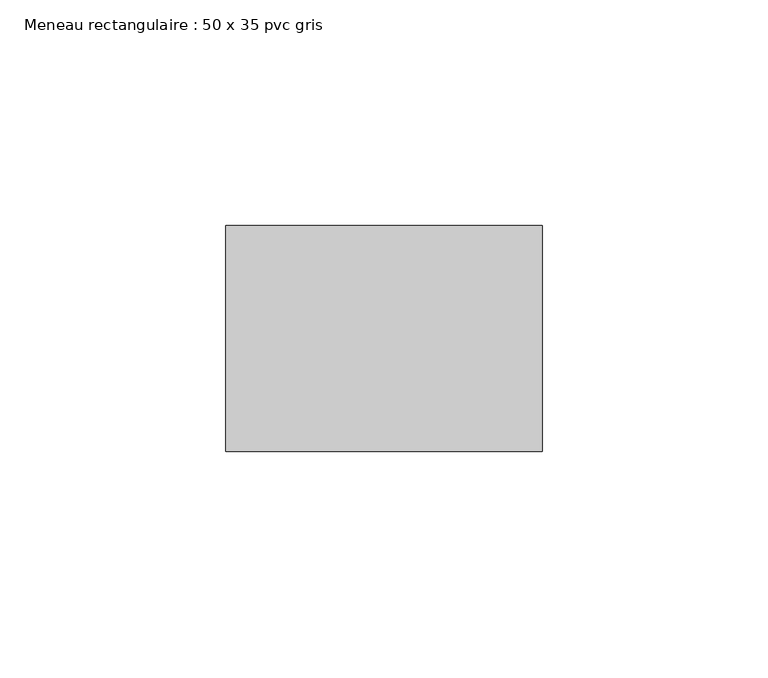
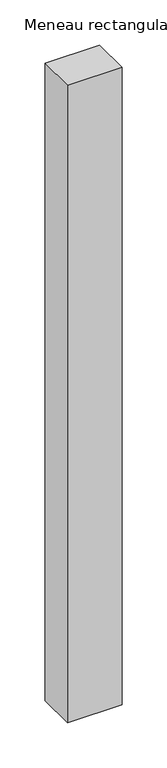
"""IFC4 building model written with IfcOpenShell, lengths in millimetres: member geometry, Meneau rectangulaire : 50 x 35 pvc gris."""

import ifcopenshell
import ifcopenshell.guid

model = None  # the IFC model being written
_history = None  # IfcOwnerHistory: only IFC2X3 demands one
_inside = {}  # id of a spatial element -> (the spatial element, [elements in it])
_under = {}  # id of a project, library or spatial element -> (it, [spatial elements below it])
_declared = {}  # id of a project -> (the project, [libraries it declares])
_typed = {}  # id of a type object -> (the type object, [elements of that type])
_made_of = {}  # id of a material, layer set ... -> (it, [elements and type objects made of it])


def new_model(schema):
    """Start an empty IFC model of exactly this schema.

    Asked for "IFC4X3", IfcOpenShell would pick the latest addendum, in which some entities
    have other attributes; the version numbers below select the first issue.
    IFC2X3 requires an IfcOwnerHistory on every rooted entity: one is made here for all.
    """
    global model, _history
    if schema == "IFC4X3":
        model = ifcopenshell.file(schema_version=(4, 3, 0, 0))
    else:
        model = ifcopenshell.file(schema=schema)
    _inside.clear()
    _under.clear()
    _declared.clear()
    _typed.clear()
    _made_of.clear()
    _history = None
    if model.schema == "IFC2X3":
        org = make("IfcOrganization", Name="unknown")
        user = make(
            "IfcPersonAndOrganization",
            ThePerson=make("IfcPerson", FamilyName="unknown"),
            TheOrganization=org,
        )
        app = make(
            "IfcApplication",
            ApplicationDeveloper=org,
            Version="unknown",
            ApplicationFullName="unknown",
            ApplicationIdentifier="unknown",
        )
        _history = make(
            "IfcOwnerHistory",
            OwningUser=user,
            OwningApplication=app,
            ChangeAction="ADDED",
            CreationDate=0,
        )
    return model


def make(cls, **values):
    """One entity of the class cls with the attributes given. An attribute that is None is left unset."""
    return model.create_entity(
        cls, **{name: value for name, value in values.items() if value is not None}
    )


def rooted(cls, **values):
    """An entity with a GlobalId (a new one), such as an element, a storey or a relation."""
    return make(cls, GlobalId=ifcopenshell.guid.new(), OwnerHistory=_history, **values)


def si_unit(unit_type, name, prefix=None):
    """IfcSIUnit, for example si_unit("LENGTHUNIT", "METRE", prefix="MILLI")."""
    return make("IfcSIUnit", UnitType=unit_type, Prefix=prefix, Name=name)


def assignment(units):
    """IfcUnitAssignment: the units of a project."""
    return None if units is None else make("IfcUnitAssignment", Units=units)


def point(xyz):
    """IfcCartesianPoint."""
    return None if xyz is None else make("IfcCartesianPoint", Coordinates=xyz)


def direction(xyz):
    """IfcDirection."""
    return None if xyz is None else make("IfcDirection", DirectionRatios=xyz)


def frame(location, z_axis=None, x_axis=None):
    """IfcAxis2Placement3D, a coordinate frame: its origin and axes. An axis left out is left unset."""
    return make(
        "IfcAxis2Placement3D",
        Location=point(location),
        Axis=direction(z_axis),
        RefDirection=direction(x_axis),
    )


def origin():
    """The frame at (0, 0, 0) with its axes left unset."""
    return frame((0.0, 0.0, 0.0))


def place(relative_to, where):
    """IfcLocalPlacement: puts the frame where relative to a parent placement (None: the world)."""
    return make(
        "IfcLocalPlacement", PlacementRelTo=relative_to, RelativePlacement=where
    )


def context(
    kind, dimensions, precision=None, world=None, true_north=None, identifier=None
):
    """IfcGeometricRepresentationContext, for example the 3D "Model" context."""
    return make(
        "IfcGeometricRepresentationContext",
        ContextIdentifier=identifier,
        ContextType=kind,
        CoordinateSpaceDimension=dimensions,
        Precision=precision,
        WorldCoordinateSystem=world,
        TrueNorth=true_north,
    )


def project(units=None, contexts=None):
    """IfcProject with its units and contexts."""
    return rooted(
        "IfcProject",
        Name="project",
        RepresentationContexts=contexts,
        UnitsInContext=assignment(units),
    )


def spatial(cls, under=None, at=None, **own):
    """A site, building, storey or space (cls), placed at a placement, below another one or the project."""
    s = rooted(cls, ObjectPlacement=at, **own)
    if under is not None:
        _under.setdefault(under.id(), (under, []))[1].append(s)
    return s


def polyline(points):
    """IfcPolyline through the points."""
    return make("IfcPolyline", Points=[point(p) for p in points])


def outline(outer, holes=None, kind="AREA"):
    """IfcArbitraryClosedProfileDef: a profile drawn as a closed curve; with holes, ...WithVoids."""
    if holes is None:
        return make("IfcArbitraryClosedProfileDef", ProfileType=kind, OuterCurve=outer)
    return make(
        "IfcArbitraryProfileDefWithVoids",
        ProfileType=kind,
        OuterCurve=outer,
        InnerCurves=holes,
    )


def extrude(swept, where, along, depth):
    """IfcExtrudedAreaSolid: the profile swept, set in the frame where, extruded along a direction by depth."""
    return make(
        "IfcExtrudedAreaSolid",
        SweptArea=swept,
        Position=where,
        ExtrudedDirection=direction(along),
        Depth=depth,
    )


def shape(context_of_items, identifier, shape_type, items):
    """IfcShapeRepresentation: the items that make up one representation, for example the "Body"."""
    return make(
        "IfcShapeRepresentation",
        ContextOfItems=context_of_items,
        RepresentationIdentifier=identifier,
        RepresentationType=shape_type,
        Items=items,
    )


def source(mapping_origin, context_of_items, identifier, shape_type, items):
    """IfcRepresentationMap: a shape defined once, which mapped items show again and again."""
    return make(
        "IfcRepresentationMap",
        MappingOrigin=mapping_origin,
        MappedRepresentation=shape(context_of_items, identifier, shape_type, items),
    )


def transform(
    local_origin,
    x_axis=None,
    y_axis=None,
    z_axis=None,
    scale=None,
    scale2=None,
    scale3=None,
    uniform=True,
):
    """IfcCartesianTransformationOperator3D, or its non-uniform kind. x_axis, y_axis, z_axis: its Axis1, 2, 3."""
    if uniform:
        return make(
            "IfcCartesianTransformationOperator3D",
            Axis1=direction(x_axis),
            Axis2=direction(y_axis),
            LocalOrigin=point(local_origin),
            Scale=scale,
            Axis3=direction(z_axis),
        )
    return make(
        "IfcCartesianTransformationOperator3DnonUniform",
        Axis1=direction(x_axis),
        Axis2=direction(y_axis),
        LocalOrigin=point(local_origin),
        Scale=scale,
        Axis3=direction(z_axis),
        Scale2=scale2,
        Scale3=scale3,
    )


def mapped(mapping_source, mapping_target):
    """IfcMappedItem: shows the shape of a source again, moved by a transform."""
    return make(
        "IfcMappedItem", MappingSource=mapping_source, MappingTarget=mapping_target
    )


def made_of(thing, what):
    """Note that an element or type object is made of a material, layer set ...; save() writes the relation."""
    if what is not None:
        _made_of.setdefault(what.id(), (what, []))[1].append(thing)
    return thing


def element(
    cls,
    number,
    at=None,
    inside=None,
    cuts=None,
    type_object=None,
    material=None,
    context=None,
    identifier="Body",
    shape_type=None,
    held_by="IfcProductDefinitionShape",
    body=None,
    shapes=None,
    **own,
):
    """One element of the class cls, such as IfcWall. Its Tag is "e" and its number.

    at: its placement. inside: the storey or other place that contains it. cuts: it is an
    opening in that element (IfcRelVoidsElement). A single representation is given by context,
    identifier, shape_type and body (its items); several are given by shapes. held_by: the class
    of the entity that holds the representations. save() writes the other relations.
    """
    e = rooted(cls, Tag="e%d" % number, ObjectPlacement=at, **own)
    if body is not None:
        shapes = [shape(context, identifier, shape_type, body)]
    if shapes is not None:
        e.Representation = make(held_by, Representations=shapes)
    if inside is not None:
        _inside.setdefault(inside.id(), (inside, []))[1].append(e)
    if cuts is not None:
        rooted(
            "IfcRelVoidsElement", RelatingBuildingElement=cuts, RelatedOpeningElement=e
        )
    if type_object is not None:
        _typed.setdefault(type_object.id(), (type_object, []))[1].append(e)
    return made_of(e, material)


def aggregate(whole, parts):
    """IfcRelAggregates: a whole, such as a stair, and the parts it consists of."""
    return rooted("IfcRelAggregates", RelatingObject=whole, RelatedObjects=parts)


def save(model, path):
    """Write the relations noted so far, then the file.

    IfcRelAggregates (storeys below a building ...), IfcRelContainedInSpatialStructure (elements
    in a storey), IfcRelDefinesByType, IfcRelAssociatesMaterial and IfcRelDeclares: one each for
    every whole, place, type object, material and project.
    """
    for whole, parts in _under.values():
        aggregate(whole, parts)
    for where, things in _inside.values():
        rooted(
            "IfcRelContainedInSpatialStructure",
            RelatedElements=things,
            RelatingStructure=where,
        )
    for kind, things in _typed.values():
        rooted("IfcRelDefinesByType", RelatedObjects=things, RelatingType=kind)
    for what, things in _made_of.values():
        rooted("IfcRelAssociatesMaterial", RelatedObjects=things, RelatingMaterial=what)
    for by, libraries in _declared.values():
        rooted("IfcRelDeclares", RelatingContext=by, RelatedDefinitions=libraries)
    model.write(path)


def meneau_rectangulaire_50_x_35_pvc_gris_e09bb9aa(model_context):
    return source(origin(), model_context, "Body", "SweptSolid", [
        extrude(outline(polyline([(0.0, 0.0), (0.0, -50.0), (-70.0, -50.0), (-70.0, 0.0), (0.0, 0.0)])), frame((0.0, 0.0, -864.6572324), z_axis=(0.0, 0.0, 1.0), x_axis=(1.0, 0.0, 0.0)), (0.0, 0.0, 1.0), 864.6572324),
    ])


if __name__ == "__main__":
    model = new_model("IFC4")
    model_context = context("Model", 3, world=origin())
    ifc_project = project(units=[si_unit("LENGTHUNIT", "METRE", prefix="MILLI")], contexts=[model_context])
    site = spatial("IfcSite", under=ifc_project)
    building = spatial("IfcBuilding", under=site)
    placement = place(None, origin())
    meneau_rectangulaire_50_x_35_pvc_gris_shape = meneau_rectangulaire_50_x_35_pvc_gris_e09bb9aa(model_context)
    element("IfcMember", 1, ObjectType="Meneau rectangulaire : 50 x 35 pvc gris", at=placement, inside=building, context=model_context, shape_type="MappedRepresentation", body=[
        mapped(meneau_rectangulaire_50_x_35_pvc_gris_shape, transform((0.0, 0.0, 0.0), x_axis=(1.0, 0.0, 0.0), y_axis=(0.0, 1.0, 0.0), z_axis=(0.0, 0.0, 1.0))),
    ])
    save(model, "model.ifc")
